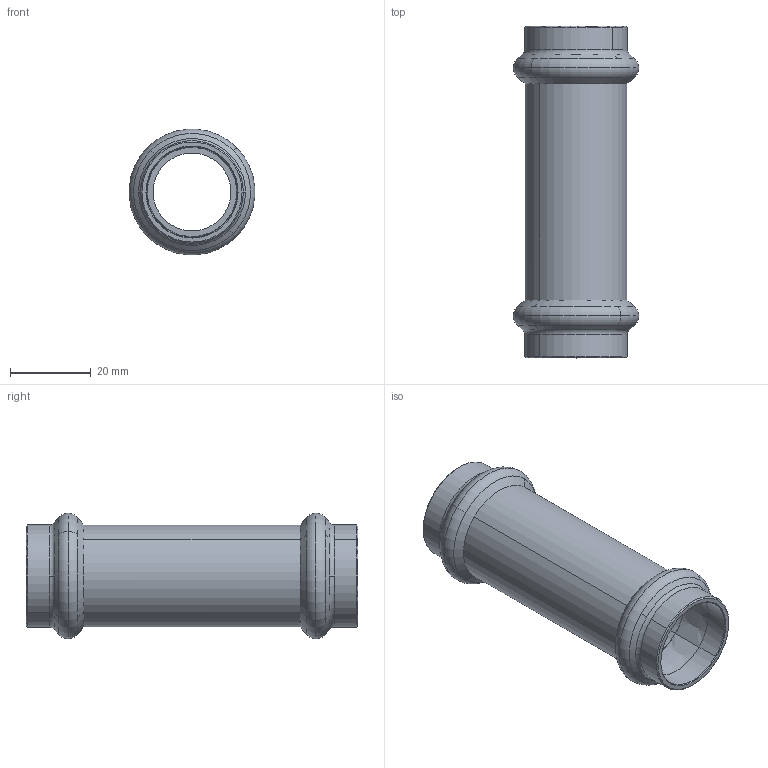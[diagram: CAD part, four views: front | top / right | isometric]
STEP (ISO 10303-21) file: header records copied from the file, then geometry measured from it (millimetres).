
FILE_DESCRIPTION(('CoCreate Modeling STEP Export'),'2;1');
FILE_NAME('8275VW22.stp','2013-01-29T12:43:29',(''),(''),'CoCreate Modeling STEP processor for AP214 (Solid Model)','CoCreate Modeling 17.00A 17-Jun-2010 (C) Parametric Technology GmbH','');
FILE_SCHEMA(('AUTOMOTIVE_DESIGN { 1 0 10303 214 1 1 1 1 }'));
Length unit declared in the file: millimetre
Products named in the file (1): 8275VW22
Bounding box: 31.08 x 82.2 x 31.08 mm (x, y, z)
Volume: 12050.7 mm3; surface area: 13447.8 mm2
Topology: 1 solids, 1 shells, 62 faces, 178 edges, 122 vertices
Faces by surface type: cone 20, cylinder 20, torus 16, plane 6
Entity records: 1576 total; most frequent: ORIENTED_EDGE 356, CARTESIAN_POINT 245, DIRECTION 206, EDGE_CURVE 178, VERTEX_POINT 122, AXIS2_PLACEMENT_3D 83, EDGE_LOOP 68, FACE_OUTER_BOUND 62
